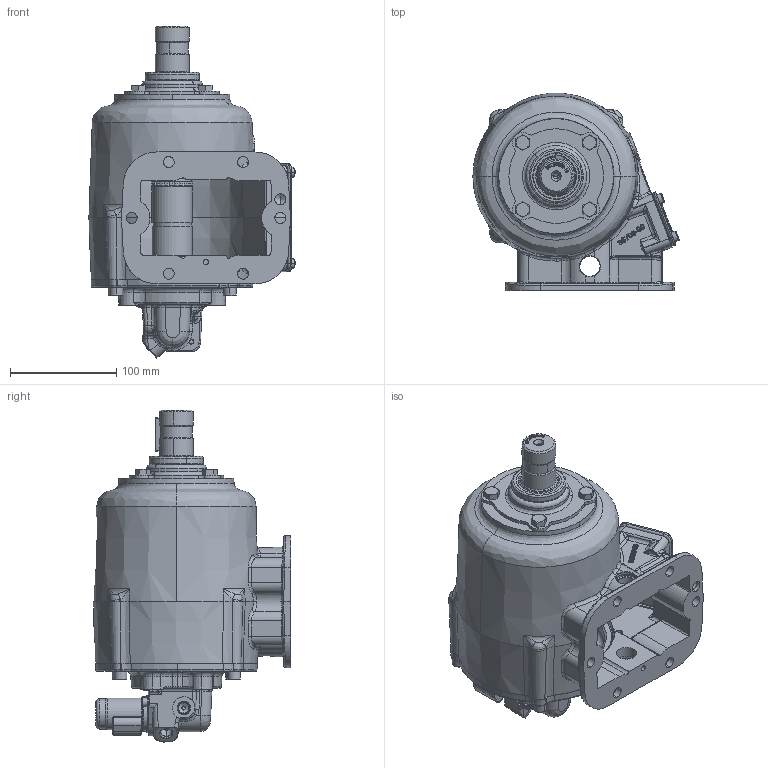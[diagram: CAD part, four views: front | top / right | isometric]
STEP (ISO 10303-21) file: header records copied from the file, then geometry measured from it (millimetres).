
FILE_DESCRIPTION (( 'STEP AP203' ), '1' );
FILE_NAME ('CS6B-XXXXX-H3BX.STEP', '2023-05-17T18:51:15', ( '' ), ( '' ), 'SwSTEP 2.0', 'SolidWorks 2021', '' );
FILE_SCHEMA (( 'CONFIG_CONTROL_DESIGN' ));
Length unit declared in the file: inch
Products named in the file (22): 19T33233; 19T35237; 35T40860-2; 12T34003; 19T40859; 49T36464; 19T36174; 24T36894; 15T34576; 11T37790; 11T36124-1; 16T41119; 19T41118; 15T41597; 12T36472; 12T36471; 26T01627; 01T37072-01; 24T35480; CS6B-XXXXX-H3BX; CS6_8 OUTPUT SHAFTS_06T36892; 25T21684
Assembly tree (36 placements, depth 2):
  CS6B-XXXXX-H3BX
    01T37072-01
    16T41119
    12T34003
    25T21684  x2
    19T41118  x4
    11T37790
    CS6_8 OUTPUT SHAFTS_06T36892
    11T36124-1
    24T36894
    24T35480
    12T36472
    49T36464
    12T36471  x2
    15T34576
    26T01627
    19T33233  x4
    19T36174  x4
    15T41597
    35T40860-2
    19T35237  x4
    19T40859  x2
Bounding box: 193.76 x 185.25 x 311.96 mm (x, y, z)
Volume: 1482574 mm3; surface area: 454217.9 mm2
Topology: 33 solids, 41 shells, 3089 faces, 7678 edges, 4720 vertices
Faces by surface type: bspline 934, plane 818, cylinder 742, cone 398, torus 180, sphere 17
Entity records: 173731 total; most frequent: CARTESIAN_POINT 111967, ORIENTED_EDGE 13718, DIRECTION 9946, EDGE_CURVE 6860, VERTEX_POINT 4283, AXIS2_PLACEMENT_3D 3795, EDGE_LOOP 2992, ADVANCED_FACE 2754
